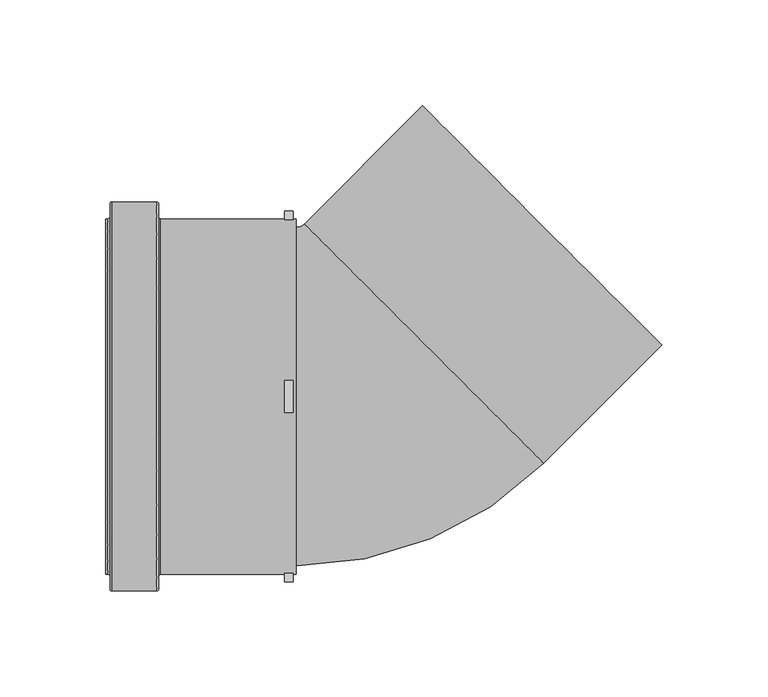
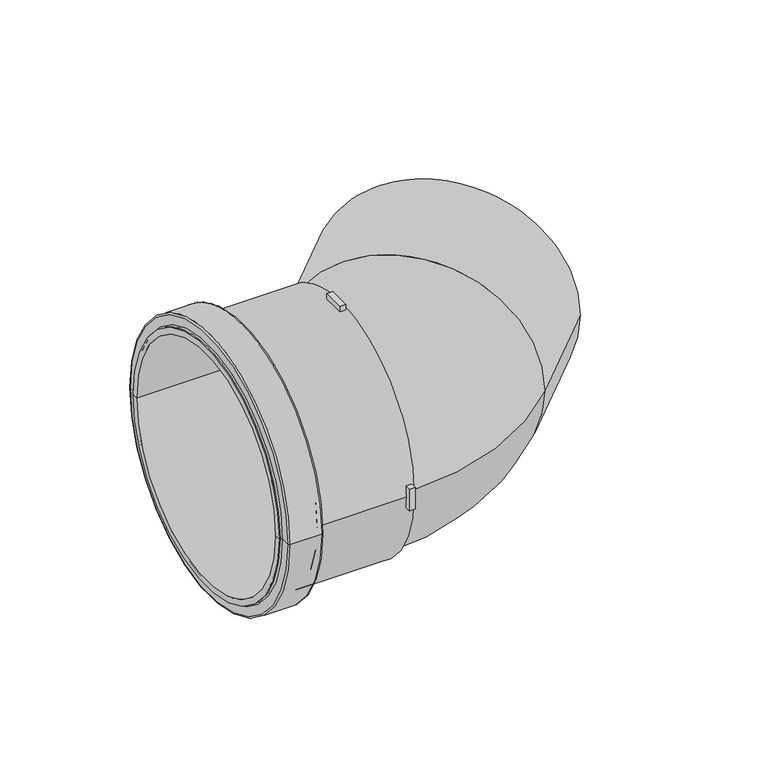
"""IFC4 building model written with IfcOpenShell, lengths in millimetres: pipe fitting geometry, MarleyPlumbingAndDrainage_PipeFitting_dBlue45DegreeBend_VKL : VKL-160-000-45D - 160mm - Blue."""

from ifc_helpers import new_model, si_unit, point, frame, origin, place, context, project, spatial, polyline, circle_curve, ellipse_curve, trimmed, source, transform, mapped, element, save
from ifc_brep_helpers import plane_surface, cylinder_surface, revolved_surface, advanced_brep


def pipe_fitting_680307cb(model_context):
    return source(origin(), model_context, "Body", "AdvancedBrep", [
        advanced_brep(
        [(-116.1820477, 92.0, 0.0), (-116.1820477, -92.0, 0.0), (-115.1820477, -91.0, 0.0), (-115.1820477, 91.0, 0.0), (-137.1820477, 92.0, 0.0), (-137.1820477, -92.0, 0.0), (-138.1820477, 91.0, 0.0), (-138.1820477, -91.0, 0.0), (-138.1820477, 85.0, 0.0), (-138.1820477, -85.0, 0.0), (-139.1820477, 84.0, 0.0), (-139.1820477, -84.0, 0.0), (-140.1820477, 80.0, 0.0), (-140.1820477, -80.0, 0.0), (-140.1820477, -84.0, 0.0), (-140.1820477, 84.0, 0.0), (-50.1820477, 80.0, 0.0), (-50.1820477, -80.0, 0.0), (-50.1820477, 84.0, 0.0), (-50.1820477, -84.0, 0.0), (-51.6820477, 84.0, 0.0), (-51.6820477, 83.6645086, 7.5), (-55.6820477, 83.6645086, 7.5), (-55.6820477, 84.0, 0.0), (-114.1820477, 84.0, 0.0), (-114.1820477, -84.0, 0.0), (-55.6820477, -84.0, 0.0), (-55.6820477, -83.6645086, 7.5), (-51.6820477, -83.6645086, 7.5), (-51.6820477, -84.0, 0.0), (-55.6820477, -7.5, 83.6645086), (-55.6820477, 7.5, 83.6645086), (-51.6820477, 7.5, 83.6645086), (-51.6820477, -7.5, 83.6645086), (-51.6820477, -83.6645086, -7.5), (-55.6820477, -83.6645086, -7.5), (-55.6820477, 83.6645086, -7.5), (-51.6820477, 83.6645086, -7.5), (-55.6820477, 7.5, -83.6645086), (-55.6820477, -7.5, -83.6645086), (-51.6820477, -7.5, -83.6645086), (-51.6820477, 7.5, -83.6645086), (-115.1820477, 85.0, 0.0), (-115.1820477, -85.0, 0.0), (-55.6820477, 87.6798152, 7.5), (-55.6820477, 87.6798152, -7.5), (-55.6820477, -7.5, 87.6798152), (-55.6820477, 7.5, 87.6798152), (-55.6820477, -87.6798152, -7.5), (-55.6820477, -87.6798152, 7.5), (-55.6820477, 7.5, -87.6798152), (-55.6820477, -7.5, -87.6798152), (-51.6820477, 87.6798152, -7.5), (-51.6820477, 87.6798152, 7.5), (-51.6820477, 7.5, 87.6798152), (-51.6820477, -7.5, 87.6798152), (-51.6820477, -87.6798152, 7.5), (-51.6820477, -87.6798152, -7.5), (-51.6820477, -7.5, -87.6798152), (-51.6820477, 7.5, -87.6798152)],
        [
            (0, 1, circle_curve(frame((-116.1820477, 0.0, 0.0), z_axis=(1.0, 0.0, 0.0), x_axis=(0.0, -1.0, 0.0)), 92.0)),
            (1, 2, circle_curve(frame((-116.1820477, -91.0, 0.0), z_axis=(0.0, 0.0, 1.0), x_axis=(0.0, -1.0, 0.0)), 1.0)),
            (2, 3, circle_curve(frame((-115.1820477, 0.0, 0.0), z_axis=(-1.0, 0.0, 0.0), x_axis=(0.0, -1.0, 0.0)), 91.0)),
            (3, 0, circle_curve(frame((-116.1820477, 91.0, 0.0), z_axis=(0.0, 0.0, 1.0), x_axis=(0.0, 1.0, 0.0)), 1.0)),
            (1, 0, circle_curve(frame((-116.1820477, 0.0, 0.0), z_axis=(1.0, 0.0, 0.0), x_axis=(0.0, -1.0, 0.0)), 92.0)),
            (3, 2, circle_curve(frame((-115.1820477, 0.0, 0.0), z_axis=(-1.0, 0.0, 0.0), x_axis=(0.0, -1.0, 0.0)), 91.0)),
            (0, 4),
            (4, 5, circle_curve(frame((-137.1820477, 0.0, 0.0), z_axis=(1.0, 0.0, 0.0), x_axis=(0.0, -1.0, 0.0)), 92.0)),
            (5, 1),
            (5, 4, circle_curve(frame((-137.1820477, 0.0, 0.0), z_axis=(1.0, 0.0, 0.0), x_axis=(0.0, -1.0, 0.0)), 92.0)),
            (4, 6, circle_curve(frame((-137.1820477, 91.0, 0.0), z_axis=(0.0, 0.0, 1.0), x_axis=(0.0, 1.0, 0.0)), 1.0)),
            (6, 7, circle_curve(frame((-138.1820477, 0.0, 0.0), z_axis=(1.0, 0.0, 0.0), x_axis=(0.0, -1.0, 0.0)), 91.0)),
            (7, 5, circle_curve(frame((-137.1820477, -91.0, 0.0), z_axis=(0.0, 0.0, 1.0), x_axis=(0.0, -1.0, 0.0)), 1.0)),
            (7, 6, circle_curve(frame((-138.1820477, 0.0, 0.0), z_axis=(1.0, 0.0, 0.0), x_axis=(0.0, -1.0, 0.0)), 91.0)),
            (6, 8),
            (8, 9, circle_curve(frame((-138.1820477, 0.0, 0.0), z_axis=(1.0, 0.0, 0.0), x_axis=(0.0, -1.0, 0.0)), 85.0)),
            (9, 7),
            (9, 8, circle_curve(frame((-138.1820477, 0.0, 0.0), z_axis=(1.0, 0.0, 0.0), x_axis=(0.0, -1.0, 0.0)), 85.0)),
            (8, 10, circle_curve(frame((-139.1820477, 85.0, 0.0), z_axis=(0.0, 0.0, -1.0), x_axis=(0.0, 1.0, 0.0)), 1.0)),
            (10, 11, circle_curve(frame((-139.1820477, 0.0, 0.0), z_axis=(1.0, 0.0, 0.0), x_axis=(0.0, -1.0, 0.0)), 84.0)),
            (11, 9, circle_curve(frame((-139.1820477, -85.0, 0.0), z_axis=(0.0, 0.0, -1.0), x_axis=(0.0, -1.0, 0.0)), 1.0)),
            (11, 10, circle_curve(frame((-139.1820477, 0.0, 0.0), z_axis=(1.0, 0.0, 0.0), x_axis=(0.0, -1.0, 0.0)), 84.0)),
            (12, 13, circle_curve(frame((-140.1820477, 0.0, 0.0), z_axis=(1.0, 0.0, 0.0), x_axis=(0.0, -1.0, 0.0)), 80.0)),
            (13, 14),
            (14, 15, circle_curve(frame((-140.1820477, 0.0, 0.0), z_axis=(-1.0, 0.0, 0.0), x_axis=(0.0, -1.0, 0.0)), 84.0)),
            (15, 12),
            (13, 12, circle_curve(frame((-140.1820477, 0.0, 0.0), z_axis=(1.0, 0.0, 0.0), x_axis=(0.0, -1.0, 0.0)), 80.0)),
            (15, 14, circle_curve(frame((-140.1820477, 0.0, 0.0), z_axis=(-1.0, 0.0, 0.0), x_axis=(0.0, -1.0, 0.0)), 84.0)),
            (12, 16),
            (16, 17, circle_curve(frame((-50.1820477, 0.0, 0.0), z_axis=(1.0, 0.0, 0.0), x_axis=(0.0, -1.0, 0.0)), 80.0)),
            (17, 13),
            (17, 16, circle_curve(frame((-50.1820477, 0.0, 0.0), z_axis=(1.0, 0.0, 0.0), x_axis=(0.0, -1.0, 0.0)), 80.0)),
            (16, 18),
            (18, 19, circle_curve(frame((-50.1820477, 0.0, 0.0), z_axis=(1.0, 0.0, 0.0), x_axis=(0.0, -1.0, 0.0)), 84.0)),
            (19, 17),
            (19, 18, circle_curve(frame((-50.1820477, 0.0, 0.0), z_axis=(1.0, 0.0, 0.0), x_axis=(0.0, -1.0, 0.0)), 84.0)),
            (18, 20),
            (20, 21, circle_curve(frame((-51.6820477, 0.0, 0.0), z_axis=(1.0, 0.0, 0.0), x_axis=(0.0, -1.0, 0.0)), 84.0)),
            (21, 22),
            (22, 23, circle_curve(frame((-55.6820477, 0.0, 0.0), z_axis=(-1.0, 0.0, 0.0), x_axis=(0.0, -1.0, 0.0)), 84.0)),
            (23, 24),
            (24, 25, circle_curve(frame((-114.1820477, 0.0, 0.0), z_axis=(1.0, 0.0, 0.0), x_axis=(0.0, -1.0, 0.0)), 84.0)),
            (25, 26),
            (26, 27, circle_curve(frame((-55.6820477, 0.0, 0.0), z_axis=(-1.0, 0.0, 0.0), x_axis=(0.0, -1.0, 0.0)), 84.0)),
            (27, 28),
            (28, 29, circle_curve(frame((-51.6820477, 0.0, 0.0), z_axis=(1.0, 0.0, 0.0), x_axis=(0.0, -1.0, 0.0)), 84.0)),
            (29, 19),
            (30, 31, circle_curve(frame((-55.6820477, 0.0, 0.0), z_axis=(-1.0, 0.0, 0.0), x_axis=(0.0, -1.0, 0.0)), 84.0)),
            (31, 32),
            (32, 33, circle_curve(frame((-51.6820477, 0.0, 0.0), z_axis=(1.0, 0.0, 0.0), x_axis=(0.0, -1.0, 0.0)), 84.0)),
            (33, 30),
            (29, 34, circle_curve(frame((-51.6820477, 0.0, 0.0), z_axis=(1.0, 0.0, 0.0), x_axis=(0.0, -1.0, 0.0)), 84.0)),
            (34, 35),
            (35, 26, circle_curve(frame((-55.6820477, 0.0, 0.0), z_axis=(-1.0, 0.0, 0.0), x_axis=(0.0, -1.0, 0.0)), 84.0)),
            (25, 24, circle_curve(frame((-114.1820477, 0.0, 0.0), z_axis=(1.0, 0.0, 0.0), x_axis=(0.0, -1.0, 0.0)), 84.0)),
            (23, 36, circle_curve(frame((-55.6820477, 0.0, 0.0), z_axis=(-1.0, 0.0, 0.0), x_axis=(0.0, -1.0, 0.0)), 84.0)),
            (36, 37),
            (37, 20, circle_curve(frame((-51.6820477, 0.0, 0.0), z_axis=(1.0, 0.0, 0.0), x_axis=(0.0, -1.0, 0.0)), 84.0)),
            (38, 39, circle_curve(frame((-55.6820477, 0.0, 0.0), z_axis=(-1.0, 0.0, 0.0), x_axis=(0.0, -1.0, 0.0)), 84.0)),
            (39, 40),
            (40, 41, circle_curve(frame((-51.6820477, 0.0, 0.0), z_axis=(1.0, 0.0, 0.0), x_axis=(0.0, -1.0, 0.0)), 84.0)),
            (41, 38),
            (24, 42, circle_curve(frame((-114.1820477, 85.0, 0.0), z_axis=(0.0, 0.0, -1.0), x_axis=(0.0, 1.0, 0.0)), 1.0)),
            (42, 43, circle_curve(frame((-115.1820477, 0.0, 0.0), z_axis=(1.0, 0.0, 0.0), x_axis=(0.0, -1.0, 0.0)), 85.0)),
            (43, 25, circle_curve(frame((-114.1820477, -85.0, 0.0), z_axis=(0.0, 0.0, -1.0), x_axis=(0.0, -1.0, 0.0)), 1.0)),
            (43, 42, circle_curve(frame((-115.1820477, 0.0, 0.0), z_axis=(1.0, 0.0, 0.0), x_axis=(0.0, -1.0, 0.0)), 85.0)),
            (2, 43),
            (42, 3),
            (10, 15),
            (14, 11),
            (22, 44),
            (44, 45, circle_curve(frame((-55.6820477, 0.0, 0.0), z_axis=(-1.0, 0.0, 0.0), x_axis=(0.0, -1.0, 0.0)), 88.0)),
            (45, 36),
            (30, 46),
            (46, 47, circle_curve(frame((-55.6820477, 0.0, 0.0), z_axis=(-1.0, 0.0, 0.0), x_axis=(0.0, -1.0, 0.0)), 88.0)),
            (47, 31),
            (35, 48),
            (48, 49, circle_curve(frame((-55.6820477, 0.0, 0.0), z_axis=(-1.0, 0.0, 0.0), x_axis=(0.0, -1.0, 0.0)), 88.0)),
            (49, 27),
            (38, 50),
            (50, 51, circle_curve(frame((-55.6820477, 0.0, 0.0), z_axis=(-1.0, 0.0, 0.0), x_axis=(0.0, -1.0, 0.0)), 88.0)),
            (51, 39),
            (37, 52),
            (52, 53, circle_curve(frame((-51.6820477, 0.0, 0.0), z_axis=(1.0, 0.0, 0.0), x_axis=(0.0, -1.0, 0.0)), 88.0)),
            (53, 21),
            (32, 54),
            (54, 55, circle_curve(frame((-51.6820477, 0.0, 0.0), z_axis=(1.0, 0.0, 0.0), x_axis=(0.0, -1.0, 0.0)), 88.0)),
            (55, 33),
            (28, 56),
            (56, 57, circle_curve(frame((-51.6820477, 0.0, 0.0), z_axis=(1.0, 0.0, 0.0), x_axis=(0.0, -1.0, 0.0)), 88.0)),
            (57, 34),
            (40, 58),
            (58, 59, circle_curve(frame((-51.6820477, 0.0, 0.0), z_axis=(1.0, 0.0, 0.0), x_axis=(0.0, -1.0, 0.0)), 88.0)),
            (59, 41),
            (53, 44),
            (52, 45),
            (55, 46),
            (54, 47),
            (57, 48),
            (56, 49),
            (59, 50),
            (58, 51),
        ],
        [
            revolved_surface(trimmed(ellipse_curve(frame((-116.1820477, -91.0, 0.0), z_axis=(0.0, 0.0, -1.0), x_axis=(0.0, -1.0, 0.0)), 1.0, 1.0), [point((-115.1820477, -91.0, 0.0))], [point((-116.1820477, -92.0, 0.0))], True, "CARTESIAN"), (-195.1820477, 0.0, 0.0), (-1.0, 0.0, 0.0)),
            cylinder_surface(frame((-195.1820477, 0.0, 0.0), z_axis=(-1.0, 0.0, 0.0), x_axis=(0.0, -1.0, 0.0)), 92.0),
            revolved_surface(trimmed(ellipse_curve(frame((-137.1820477, -91.0, 0.0), z_axis=(0.0, 0.0, -1.0), x_axis=(0.0, -1.0, 0.0)), 1.0, 1.0), [point((-137.1820477, -92.0, 0.0))], [point((-138.1820477, -91.0, 0.0))], True, "CARTESIAN"), (-195.1820477, 0.0, 0.0), (-1.0, 0.0, 0.0)),
            plane_surface(frame((-138.1820477, 0.0, 0.0), z_axis=(-1.0, 0.0, 0.0), x_axis=(0.0, -1.0, 0.0))),
            revolved_surface(trimmed(ellipse_curve(frame((-139.1820477, -85.0, 0.0), z_axis=(0.0, 0.0, 1.0), x_axis=(0.0, -1.0, 0.0)), 1.0, 1.0), [point((-138.1820477, -85.0, 0.0))], [point((-139.1820477, -84.0, 0.0))], True, "CARTESIAN"), (-195.1820477, 0.0, 0.0), (-1.0, 0.0, 0.0)),
            plane_surface(frame((-140.1820477, 0.0, 0.0), z_axis=(-1.0, 0.0, 0.0), x_axis=(0.0, -1.0, 0.0))),
            revolved_surface(polyline([(-140.1820477, -80.0, 0.0), (-50.1820477, -80.0, 0.0)]), (-195.1820477, 0.0, 0.0), (-1.0, 0.0, 0.0)),
            plane_surface(frame((-50.1820477, 0.0, 0.0), z_axis=(1.0, 0.0, 0.0), x_axis=(0.0, -1.0, 0.0))),
            cylinder_surface(frame((-195.1820477, 0.0, 0.0), z_axis=(-1.0, 0.0, 0.0), x_axis=(0.0, -1.0, 0.0)), 84.0),
            revolved_surface(trimmed(ellipse_curve(frame((-114.1820477, -85.0, 0.0), z_axis=(0.0, 0.0, 1.0), x_axis=(0.0, -1.0, 0.0)), 1.0, 1.0), [point((-114.1820477, -84.0, 0.0))], [point((-115.1820477, -85.0, 0.0))], True, "CARTESIAN"), (-195.1820477, 0.0, 0.0), (-1.0, 0.0, 0.0)),
            plane_surface(frame((-115.1820477, 0.0, 0.0), z_axis=(1.0, 0.0, 0.0), x_axis=(0.0, -1.0, 0.0))),
            plane_surface(frame((-55.6820477, -84.0, 0.0), z_axis=(-1.0, 0.0, 0.0), x_axis=(0.0, 0.0, -1.0))),
            plane_surface(frame((-51.6820477, -84.0, 0.0), z_axis=(1.0, 0.0, 0.0), x_axis=(0.0, 0.0, 1.0))),
            plane_surface(frame((-55.6820477, 83.6645086, 7.5), z_axis=(0.0, 0.0, 1.0), x_axis=(1.0, 0.0, 0.0))),
            cylinder_surface(frame((-51.6820477, 0.0, 0.0), z_axis=(-1.0, 0.0, 0.0), x_axis=(0.0, -1.0, 0.0)), 88.0),
            plane_surface(frame((-55.6820477, 87.6798152, -7.5), z_axis=(0.0, 0.0, -1.0), x_axis=(1.0, 0.0, 0.0))),
            plane_surface(frame((-55.6820477, -7.5, 83.6645086), z_axis=(0.0, -1.0, 0.0), x_axis=(1.0, 0.0, 0.0))),
            cylinder_surface(frame((-50.1820477, 0.0, 0.0), z_axis=(-1.0, 0.0, 0.0), x_axis=(0.0, -1.0, 0.0)), 88.0),
            plane_surface(frame((-55.6820477, 7.5, 87.6798152), z_axis=(0.0, 1.0, 0.0), x_axis=(1.0, 0.0, 0.0))),
            plane_surface(frame((-55.6820477, -83.6645086, -7.5), z_axis=(0.0, 0.0, -1.0), x_axis=(1.0, 0.0, 0.0))),
            plane_surface(frame((-55.6820477, -87.6798152, 7.5), z_axis=(0.0, 0.0, 1.0), x_axis=(1.0, 0.0, 0.0))),
            plane_surface(frame((-55.6820477, 7.5, -83.6645086), z_axis=(0.0, 1.0, 0.0), x_axis=(1.0, 0.0, 0.0))),
            plane_surface(frame((-55.6820477, -7.5, -87.6798152), z_axis=(0.0, -1.0, 0.0), x_axis=(1.0, 0.0, 0.0))),
        ],
        [
            (0, [[1, 2, 3, 4]]),
            (0, [[-2, 5, -4, 6]]),
            (1, [[-1, 7, 8, 9]]),
            (1, [[-5, -9, 10, -7]]),
            (2, [[-8, 11, 12, 13]]),
            (2, [[-10, -13, 14, -11]]),
            (3, [[-12, 15, 16, 17]]),
            (3, [[-14, -17, 18, -15]]),
            (4, [[-16, 19, 20, 21]]),
            (4, [[-18, -21, 22, -19]]),
            (5, [[23, 24, 25, 26]]),
            (5, [[-24, 27, -26, 28]]),
            (6, [[-23, 29, 30, 31]]),
            (6, [[-27, -31, 32, -29]]),
            (7, [[-30, 33, 34, 35]]),
            (7, [[-32, -35, 36, -33]]),
            (8, [[-34, 37, 38, 39, 40, 41, 42, 43, 44, 45, 46, 47], [48, 49, 50, 51]]),
            (8, [[-36, -47, 52, 53, 54, -43, 55, -41, 56, 57, 58, -37], [59, 60, 61, 62]]),
            (9, [[-42, 63, 64, 65]]),
            (9, [[-55, -65, 66, -63]]),
            (10, [[-3, 67, -64, 68]]),
            (10, [[-6, -68, -66, -67]]),
            (8, [[-20, 69, -25, 70]]),
            (8, [[-22, -70, -28, -69]]),
            (11, [[71, 72, 73, -56, -40]]),
            (11, [[74, 75, 76, -48]]),
            (11, [[77, 78, 79, -44, -54]]),
            (11, [[80, 81, 82, -59]]),
            (12, [[83, 84, 85, -38, -58]]),
            (12, [[86, 87, 88, -50]]),
            (12, [[89, 90, 91, -52, -46]]),
            (12, [[92, 93, 94, -61]]),
            (13, [[-71, -39, -85, 95]]),
            (14, [[-72, -95, -84, 96]]),
            (15, [[-73, -96, -83, -57]]),
            (16, [[-74, -51, -88, 97]]),
            (17, [[-75, -97, -87, 98]]),
            (18, [[-76, -98, -86, -49]]),
            (19, [[-77, -53, -91, 99]]),
            (17, [[-78, -99, -90, 100]]),
            (20, [[-79, -100, -89, -45]]),
            (21, [[-80, -62, -94, 101]]),
            (17, [[-81, -101, -93, 102]]),
            (22, [[-82, -102, -92, -60]]),
        ],
    ),
        advanced_brep(
        [(-50.1820477, -80.0, 0.0), (-50.1820477, 80.0, 0.0), (-46.2929604, 81.6109127, 0.0), (66.8441246, -31.5261723, 0.0), (122.7055603, 24.3352634, 0.0), (9.5684754, 137.4723484, 0.0)],
        [
            (0, 1, circle_curve(frame((-50.1820477, 0.0, 0.0), z_axis=(-1.0, 0.0, 0.0), x_axis=(0.0, 1.0, 0.0)), 80.0)),
            (1, 0, circle_curve(frame((-50.1820477, 0.0, 0.0), z_axis=(-1.0, 0.0, 0.0), x_axis=(0.0, 1.0, 0.0)), 80.0)),
            (2, 1, circle_curve(frame((-50.1820477, 85.5, 0.0), z_axis=(0.0, 0.0, -1.0), x_axis=(0.0, -1.0, 0.0)), 5.5)),
            (0, 3, circle_curve(frame((-50.1820477, 85.5, 0.0), z_axis=(0.0, 0.0, 1.0), x_axis=(0.0, -1.0, 0.0)), 165.5)),
            (3, 2, circle_curve(frame((10.2755821, 25.0423702, 0.0), z_axis=(-0.7071067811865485, -0.7071067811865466, 0.0), x_axis=(-0.7071067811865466, 0.7071067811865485, 0.0)), 80.0)),
            (2, 3, circle_curve(frame((10.2755821, 25.0423702, 0.0), z_axis=(-0.7071067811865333, -0.7071067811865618, 0.0), x_axis=(-0.7071067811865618, 0.7071067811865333, 0.0)), 80.0)),
            (4, 5, circle_curve(frame((66.1370178, 80.9038059, 0.0), z_axis=(0.707106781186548, 0.707106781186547, 0.0), x_axis=(-0.707106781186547, 0.707106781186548, 0.0)), 80.0)),
            (5, 4, circle_curve(frame((66.1370178, 80.9038059, 0.0), z_axis=(0.707106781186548, 0.707106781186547, 0.0), x_axis=(-0.707106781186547, 0.707106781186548, 0.0)), 80.0)),
            (3, 4),
            (5, 2),
        ],
        [
            plane_surface(frame((-50.1820477, 0.0, 0.0), z_axis=(-1.0, 0.0, 0.0), x_axis=(0.0, 0.0, 1.0))),
            revolved_surface(trimmed(ellipse_curve(frame((-50.1820477, 0.0, 0.0), z_axis=(-1.0, 0.0, 0.0), x_axis=(0.0, 1.0, 0.0)), 80.0, 80.0), [point((-50.1820477, -80.0, 0.0))], [point((-50.1820477, 80.0, 0.0))], True, "CARTESIAN"), (-50.1820477, 85.5, 0.0), (0.0, 0.0, 1.0)),
            revolved_surface(trimmed(ellipse_curve(frame((-50.1820477, 0.0, 0.0), z_axis=(-1.0, 0.0, 0.0), x_axis=(0.0, 1.0, 0.0)), 80.0, 80.0), [point((-50.1820477, 80.0, 0.0))], [point((-50.1820477, -80.0, 0.0))], True, "CARTESIAN"), (-50.1820477, 85.5, 0.0), (0.0, 0.0, 1.0)),
            plane_surface(frame((66.1370178, 80.9038059, 0.0), z_axis=(0.707106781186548, 0.707106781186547, 0.0), x_axis=(0.0, 0.0, 1.0))),
            cylinder_surface(frame((10.2755821, 25.0423702, 0.0), z_axis=(-0.707106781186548, -0.707106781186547, 0.0), x_axis=(-0.707106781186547, 0.707106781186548, 0.0)), 80.0),
        ],
        [
            (0, [[1, 2]]),
            (1, [[3, -1, 4, 5]]),
            (2, [[-4, -2, -3, 6]]),
            (3, [[7, 8]]),
            (4, [[-5, 9, -8, 10]]),
            (4, [[-6, -10, -7, -9]]),
        ],
    ),
    ])


if __name__ == "__main__":
    model = new_model("IFC4")
    model_context = context("Model", 3, world=origin())
    ifc_project = project(units=[si_unit("LENGTHUNIT", "METRE", prefix="MILLI")], contexts=[model_context])
    site = spatial("IfcSite", under=ifc_project)
    building = spatial("IfcBuilding", under=site)
    placement = place(None, origin())
    pipe_fitting_shape = pipe_fitting_680307cb(model_context)
    element("IfcPipeFitting", 1, ObjectType="MarleyPlumbingAndDrainage_PipeFitting_dBlue45DegreeBend_VKL : VKL-160-000-45D - 160mm - Blue", at=placement, inside=building, context=model_context, shape_type="MappedRepresentation", body=[
        mapped(pipe_fitting_shape, transform((0.0, 0.0, 0.0), x_axis=(1.0, 0.0, 0.0), y_axis=(0.0, 1.0, 0.0), z_axis=(0.0, 0.0, 1.0))),
    ])
    save(model, "model.ifc")
